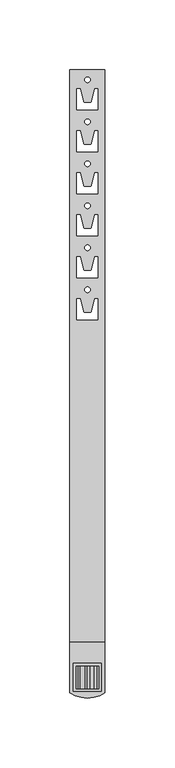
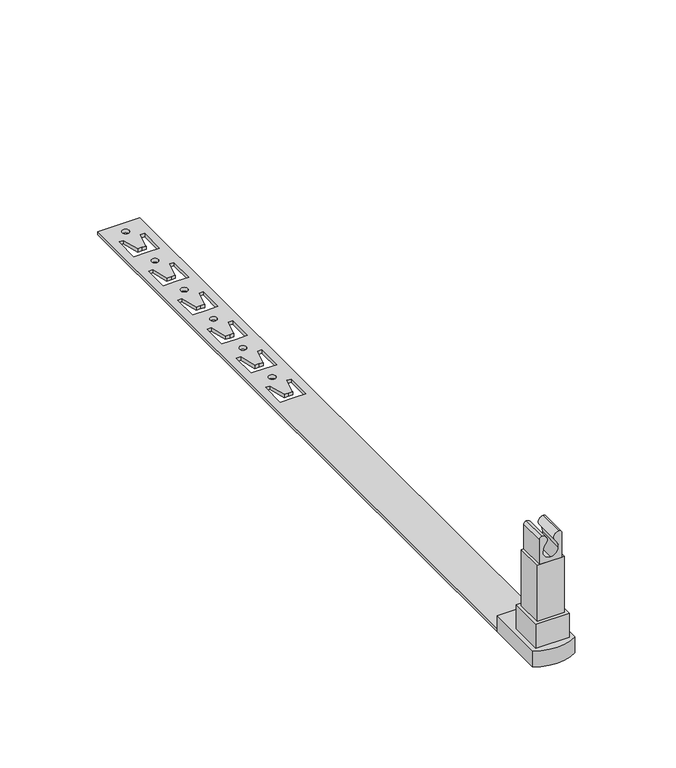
"""IFC4 building model written with IfcOpenShell, lengths in millimetres: proxy geometry, КНС_ДержательПластиковыйПодЧерепицу_DKC : ND2212CU_Медь_450 мм."""

from ifc_helpers import new_model, si_unit, point, frame, frame_2d, origin, origin_with_axes, place, context, project, spatial, polyline, circle_curve, trimmed, segment, composite_curve, outline, extrude, source, transform, mapped, element, save


def security_devices_b0c16ba0(model_context):
    return source(origin(), model_context, "Body", "SweptSolid", [
        extrude(outline(composite_curve([segment(polyline([(60.0, -6.5293889), (60.0, 6.5293889), (75.482262, 6.5293889)]), True, "CONTINUOUS"), segment(trimmed(circle_curve(frame_2d((75.482262, 5.0116508)), 1.517738), [point((75.482262, 6.5293889))], [point((77.0, 5.0116508))], False, "CARTESIAN"), True, "CONTINUOUS"), segment(trimmed(circle_curve(frame_2d((73.9480635, 5.0116508)), 3.0519365), [point((77.0, 5.0116508))], [point((72.7845702, 2.1901974))], False, "CARTESIAN"), True, "CONTINUOUS"), segment(trimmed(circle_curve(frame_2d((67.0, -3.6308466)), 8.206449), [point((72.7845702, 2.1901974))], [point((67.0, 4.5756024))], True, "CARTESIAN"), True, "CONTINUOUS"), segment(trimmed(circle_curve(frame_2d((67.0, 0.0)), 4.5756024), [point((67.0, 4.5756024))], [point((62.4243976, 0.0))], True, "CARTESIAN"), True, "CONTINUOUS"), segment(trimmed(circle_curve(frame_2d((67.0, 0.0)), 4.5756024), [point((62.4243976, 0.0))], [point((67.0, -4.5756024))], True, "CARTESIAN"), True, "CONTINUOUS"), segment(trimmed(circle_curve(frame_2d((67.0, 3.6308466)), 8.206449), [point((67.0, -4.5756024))], [point((72.7845702, -2.1901974))], True, "CARTESIAN"), True, "CONTINUOUS"), segment(trimmed(circle_curve(frame_2d((73.9480635, -5.0116508)), 3.0519365), [point((72.7845702, -2.1901974))], [point((77.0, -5.0116508))], False, "CARTESIAN"), True, "CONTINUOUS"), segment(trimmed(circle_curve(frame_2d((75.482262, -5.0116508)), 1.517738), [point((77.0, -5.0116508))], [point((75.482262, -6.5293889))], False, "CARTESIAN"), True, "CONTINUOUS"), segment(polyline([(75.482262, -6.5293889), (60.0, -6.5293889)]), True, "CONTINUOUS")], self_intersect=False)), frame((0.0, 8.0, 0.0), z_axis=(0.0, 1.0, 0.0), x_axis=(0.0, 0.0, 1.0)), (0.0, 0.0, 1.0), 16.0),
        extrude(outline(polyline([(8.0, 24.0), (8.0, 8.0), (-8.0, 8.0), (-8.0, 24.0), (8.0, 24.0)])), frame((0.0, 0.0, 25.0), z_axis=(0.0, 0.0, 1.0), x_axis=(1.0, 0.0, 0.0)), (0.0, 0.0, 1.0), 35.0),
        extrude(outline(polyline([(10.0, 26.0), (10.0, 6.0), (-10.0, 6.0), (-10.0, 26.0), (10.0, 26.0)])), frame((0.0, 0.0, 10.0), z_axis=(0.0, 0.0, 1.0), x_axis=(1.0, 0.0, 0.0)), (0.0, 0.0, 1.0), 15.0),
        extrude(outline(composite_curve([segment(trimmed(circle_curve(frame_2d((0.0, 24.125)), 22.8476613), [point((12.5, 5.0))], [point((-12.5, 5.0))], False, "CARTESIAN"), True, "CONTINUOUS"), segment(polyline([(-12.5, 5.0), (-12.5, 41.0), (12.5, 41.0), (12.5, 5.0)]), True, "CONTINUOUS")], self_intersect=False)), origin_with_axes(), (0.0, 0.0, 1.0), 10.0),
        extrude(outline(polyline([(12.5, 450.0), (12.5, 41.0), (-12.5, 41.0), (-12.5, 450.0), (12.5, 450.0)]), holes=[composite_curve([segment(trimmed(circle_curve(frame_2d((0.0, 442.9763791)), 2.0), [point((-2.0, 442.9763791))], [point((2.0, 442.9763791))], True, "CARTESIAN"), True, "CONTINUOUS"), segment(trimmed(circle_curve(frame_2d((0.0, 442.9763791)), 2.0), [point((2.0, 442.9763791))], [point((-2.0, 442.9763791))], True, "CARTESIAN"), True, "CONTINUOUS")], self_intersect=False), polyline([(-7.5, 421.5), (0.0, 421.5), (7.5, 421.5), (7.5, 436.5981413), (5.0452497, 436.5981413), (2.5276553, 426.5), (0.0, 426.5), (-2.5276553, 426.5), (-5.0452497, 436.5981413), (-7.5, 436.5981413), (-7.5, 421.5)]), composite_curve([segment(trimmed(circle_curve(frame_2d((0.0, 412.9763791)), 2.0), [point((-2.0, 412.9763791))], [point((2.0, 412.9763791))], True, "CARTESIAN"), True, "CONTINUOUS"), segment(trimmed(circle_curve(frame_2d((0.0, 412.9763791)), 2.0), [point((2.0, 412.9763791))], [point((-2.0, 412.9763791))], True, "CARTESIAN"), True, "CONTINUOUS")], self_intersect=False), polyline([(-7.5, 391.5), (0.0, 391.5), (7.5, 391.5), (7.5, 406.5981413), (5.0452497, 406.5981413), (2.5276553, 396.5), (0.0, 396.5), (-2.5276553, 396.5), (-5.0452497, 406.5981413), (-7.5, 406.5981413), (-7.5, 391.5)]), composite_curve([segment(trimmed(circle_curve(frame_2d((0.0, 382.9763791)), 2.0), [point((-2.0, 382.9763791))], [point((2.0, 382.9763791))], True, "CARTESIAN"), True, "CONTINUOUS"), segment(trimmed(circle_curve(frame_2d((0.0, 382.9763791)), 2.0), [point((2.0, 382.9763791))], [point((-2.0, 382.9763791))], True, "CARTESIAN"), True, "CONTINUOUS")], self_intersect=False), polyline([(-7.5, 361.5), (0.0, 361.5), (7.5, 361.5), (7.5, 376.5981413), (5.0452497, 376.5981413), (2.5276553, 366.5), (0.0, 366.5), (-2.5276553, 366.5), (-5.0452497, 376.5981413), (-7.5, 376.5981413), (-7.5, 361.5)]), composite_curve([segment(trimmed(circle_curve(frame_2d((0.0, 352.9763791)), 2.0), [point((-2.0, 352.9763791))], [point((2.0, 352.9763791))], True, "CARTESIAN"), True, "CONTINUOUS"), segment(trimmed(circle_curve(frame_2d((0.0, 352.9763791)), 2.0), [point((2.0, 352.9763791))], [point((-2.0, 352.9763791))], True, "CARTESIAN"), True, "CONTINUOUS")], self_intersect=False), polyline([(-7.5, 331.5), (0.0, 331.5), (7.5, 331.5), (7.5, 346.5981413), (5.0452497, 346.5981413), (2.5276553, 336.5), (0.0, 336.5), (-2.5276553, 336.5), (-5.0452497, 346.5981413), (-7.5, 346.5981413), (-7.5, 331.5)]), composite_curve([segment(trimmed(circle_curve(frame_2d((0.0, 322.9763791)), 2.0), [point((-2.0, 322.9763791))], [point((2.0, 322.9763791))], True, "CARTESIAN"), True, "CONTINUOUS"), segment(trimmed(circle_curve(frame_2d((0.0, 322.9763791)), 2.0), [point((2.0, 322.9763791))], [point((-2.0, 322.9763791))], True, "CARTESIAN"), True, "CONTINUOUS")], self_intersect=False), polyline([(-7.5, 301.5), (0.0, 301.5), (7.5, 301.5), (7.5, 316.5981413), (5.0452497, 316.5981413), (2.5276553, 306.5), (0.0, 306.5), (-2.5276553, 306.5), (-5.0452497, 316.5981413), (-7.5, 316.5981413), (-7.5, 301.5)]), composite_curve([segment(trimmed(circle_curve(frame_2d((0.0, 292.9763791)), 2.0), [point((-2.0, 292.9763791))], [point((2.0, 292.9763791))], True, "CARTESIAN"), True, "CONTINUOUS"), segment(trimmed(circle_curve(frame_2d((0.0, 292.9763791)), 2.0), [point((2.0, 292.9763791))], [point((-2.0, 292.9763791))], True, "CARTESIAN"), True, "CONTINUOUS")], self_intersect=False), polyline([(-7.5, 271.5), (0.0, 271.5), (7.5, 271.5), (7.5, 286.5981413), (5.0452497, 286.5981413), (2.5276553, 276.5), (0.0, 276.5), (-2.5276553, 276.5), (-5.0452497, 286.5981413), (-7.5, 286.5981413), (-7.5, 271.5)])]), origin_with_axes(), (0.0, 0.0, 1.0), 2.0),
    ])


if __name__ == "__main__":
    model = new_model("IFC4")
    model_context = context("Model", 3, world=origin())
    ifc_project = project(units=[si_unit("LENGTHUNIT", "METRE", prefix="MILLI")], contexts=[model_context])
    site = spatial("IfcSite", under=ifc_project)
    building = spatial("IfcBuilding", under=site)
    placement = place(None, origin())
    security_devices_shape = security_devices_b0c16ba0(model_context)
    element("IfcBuildingElementProxy", 1, Name="КНС_ДержательПластиковыйПодЧерепицу_DKC : ND2212CU_Медь_450 мм", ObjectType="КНС_ДержательПластиковыйПодЧерепицу_DKC : ND2212CU_Медь_450 мм", at=placement, inside=building, context=model_context, shape_type="MappedRepresentation", body=[
        mapped(security_devices_shape, transform((0.0, 0.0, 0.0), x_axis=(1.0, 0.0, 0.0), y_axis=(0.0, 1.0, 0.0), z_axis=(0.0, 0.0, 1.0))),
    ])
    save(model, "model.ifc")
